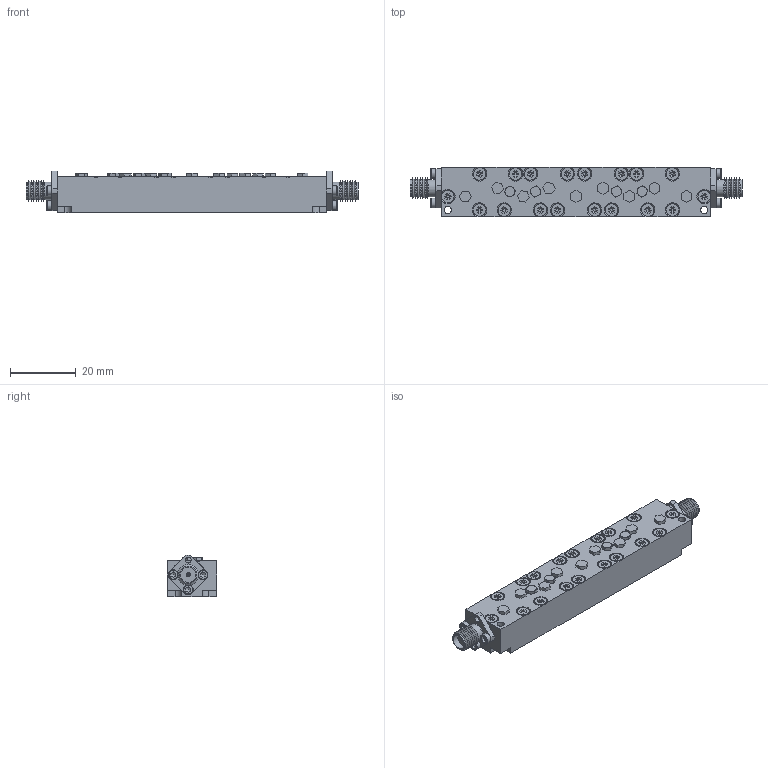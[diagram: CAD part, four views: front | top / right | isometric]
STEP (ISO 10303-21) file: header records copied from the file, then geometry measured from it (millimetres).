
FILE_DESCRIPTION(/* description */ ('Unknown'),/* implementation_level */ '2;1');
FILE_NAME(/* name */ 'DETI_MICROWAVE_BANDPASS_FILTER_001233_STEP',/* time_stamp */ '2021-06-04T14:41:24+02:00',/* author */ ('ALG'),/* organization */ ('DETI'),/* preprocessor_version */ 'ST-DEVELOPER v16.7',/* originating_system */ 'Solid Edge',/* authorisation */ 'Unknown');
FILE_SCHEMA (('AUTOMOTIVE_DESIGN {1 0 10303 214 3 1 1}'));
Length unit declared in the file: millimetre
Products named in the file (1): 001223 0A 1501A2
Bounding box: 101 x 15 x 12.7 mm (x, y, z)
Volume: 13730.4 mm3; surface area: 7586.3 mm2
Topology: 1 solids, 35 shells, 1082 faces, 2893 edges, 1910 vertices
Faces by surface type: plane 807, cylinder 123, cone 118, torus 34
Full cylindrical faces by diameter (mm): 0.47 x2, 1 x4, 1.1 x2, 1.221 x6, 1.27 x4, 1.6 x6, 1.8 x8, 2 x19, 2.2 x20, 3 x6, 3.8 x18, 4.1 x2, 4.6 x2, 5.3 x4
Entity records: 39251 total; most frequent: CARTESIAN_POINT 6070, ORIENTED_EDGE 5204, DIRECTION 4952, EDGE_CURVE 2602, LINE 2018, VECTOR 2018, VERTEX_POINT 1831, AXIS2_PLACEMENT_3D 1467
